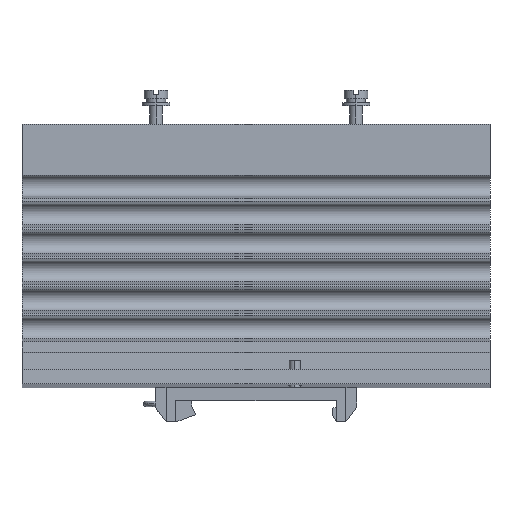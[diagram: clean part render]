
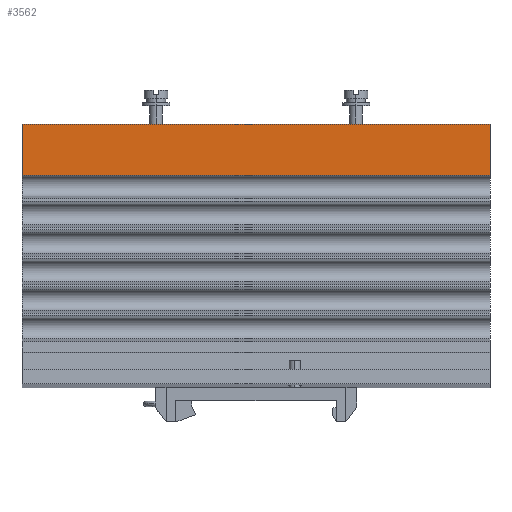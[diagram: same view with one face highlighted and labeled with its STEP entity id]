
A CAD part, left-side view. The second image highlights one B-rep face of the part: STEP entity #3562.
In plain terms, the highlighted planar face has unit normal (-1, 0, 0).
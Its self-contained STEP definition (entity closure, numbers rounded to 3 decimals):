
#927 = VECTOR ( 'NONE', #6449, 1000. ) ;
#2739 = EDGE_LOOP ( 'NONE', ( #3702, #3703, #3704, #3701 ) ) ;
#3115 = VERTEX_POINT ( 'NONE', #6196 ) ;
#3116 = VERTEX_POINT ( 'NONE', #6197 ) ;
#3307 = VERTEX_POINT ( 'NONE', #6388 ) ;
#3308 = VERTEX_POINT ( 'NONE', #6389 ) ;
#3484 = EDGE_CURVE ( 'NONE', #3308, #3307, #6447, .T. ) ;
#3562 = ADVANCED_FACE ( 'NONE', ( #6658 ), #7416, .F. ) ;
#3701 = ORIENTED_EDGE ( 'NONE', *, *, #9145, .F. ) ;
#3702 = ORIENTED_EDGE ( 'NONE', *, *, #4789, .F. ) ;
#3703 = ORIENTED_EDGE ( 'NONE', *, *, #9143, .F. ) ;
#3704 = ORIENTED_EDGE ( 'NONE', *, *, #3484, .T. ) ;
#4789 = EDGE_CURVE ( 'NONE', #3115, #3116, #7700, .T. ) ;
#6196 = CARTESIAN_POINT ( 'NONE',  ( -21., -55., 62. ) ) ;
#6197 = CARTESIAN_POINT ( 'NONE',  ( -21., -55., 50. ) ) ;
#6388 = CARTESIAN_POINT ( 'NONE',  ( -21., 55., 50. ) ) ;
#6389 = CARTESIAN_POINT ( 'NONE',  ( -21., 55., 62. ) ) ;
#6447 = LINE ( 'NONE', #6448, #927 ) ;
#6448 = CARTESIAN_POINT ( 'NONE',  ( -21., 55., 62. ) ) ;
#6449 = DIRECTION ( 'NONE',  ( 0., 0., -1. ) ) ;
#6658 = FACE_OUTER_BOUND ( 'NONE', #2739, .T. ) ;
#6661 = AXIS2_PLACEMENT_3D ( 'NONE', #7417, #7418, #7419 ) ;
#6747 = VECTOR ( 'NONE', #7702, 1000. ) ;
#6969 = VECTOR ( 'NONE', #8164, 1000. ) ;
#6971 = VECTOR ( 'NONE', #8170, 1000. ) ;
#7416 = PLANE ( 'NONE',  #6661 ) ;
#7417 = CARTESIAN_POINT ( 'NONE',  ( -21., 55., 62. ) ) ;
#7418 = DIRECTION ( 'NONE',  ( 1., 0., 0. ) ) ;
#7419 = DIRECTION ( 'NONE',  ( 0., 0., 1. ) ) ;
#7700 = LINE ( 'NONE', #7701, #6747 ) ;
#7701 = CARTESIAN_POINT ( 'NONE',  ( -21., -55., 62. ) ) ;
#7702 = DIRECTION ( 'NONE',  ( 0., 0., -1. ) ) ;
#8162 = LINE ( 'NONE', #8163, #6969 ) ;
#8163 = CARTESIAN_POINT ( 'NONE',  ( -21., 55., 62. ) ) ;
#8164 = DIRECTION ( 'NONE',  ( 0., -1., 0. ) ) ;
#8168 = LINE ( 'NONE', #8169, #6971 ) ;
#8169 = CARTESIAN_POINT ( 'NONE',  ( -21., -55., 50. ) ) ;
#8170 = DIRECTION ( 'NONE',  ( 0., 1., 0. ) ) ;
#9143 = EDGE_CURVE ( 'NONE', #3308, #3115, #8162, .T. ) ;
#9145 = EDGE_CURVE ( 'NONE', #3116, #3307, #8168, .T. ) ;
